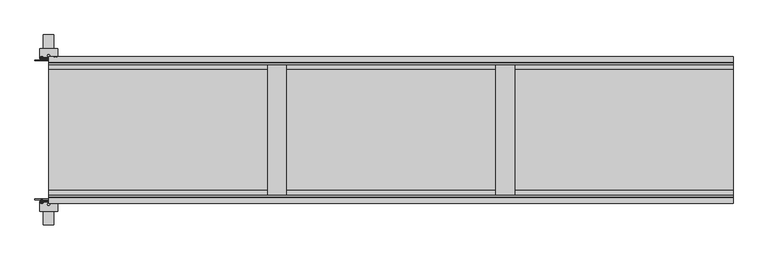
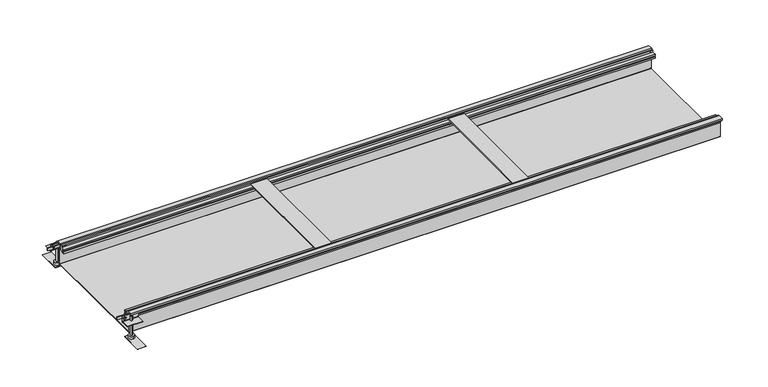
"""IFC4 building model written with IfcOpenShell, lengths in millimetres: proxy geometry."""

from ifc_helpers import new_model, si_unit, point, frame, frame_2d, origin, place, context, project, spatial, polyline, circle_curve, ellipse_curve, trimmed, segment, composite_curve, outline, extrude, source, transform, mapped, element, save
from ifc_brep_helpers import plane_surface, cylinder_surface, revolved_surface, advanced_brep


def electrical_fixtures_ce3c5b8d(model_context):
    return source(origin(), model_context, "Body", "SolidModel", [
        advanced_brep(
        [(-19.209696, -256.6418922, 2.5), (-28.790304, -256.6418922, 2.5), (-28.790304, -254.7, 2.5), (-19.209696, -254.7, 2.5), (-26.562969, -254.7, 2.5), (-21.437031, -254.7, 2.5), (-26.562969, -242.7, 2.5), (-21.437031, -242.7, 2.5), (-24.0, -242.7, 2.5), (-24.0, -258.3479209, 2.5)],
        [
            (0, 1, circle_curve(frame((-24.0, -256.6418922, 2.5), z_axis=(0.0, 1.0, 0.0), x_axis=(-1.0, 0.0, 0.0)), 4.790304)),
            (1, 2),
            (2, 3, circle_curve(frame((-24.0, -254.7, 2.5), z_axis=(0.0, -1.0, 0.0), x_axis=(-1.0, 0.0, 0.0)), 4.790304)),
            (3, 0),
            (1, 0, circle_curve(frame((-24.0, -256.6418922, 2.5), z_axis=(0.0, 1.0, 0.0), x_axis=(-1.0, 0.0, 0.0)), 4.790304)),
            (3, 2, circle_curve(frame((-24.0, -254.7, 2.5), z_axis=(0.0, -1.0, 0.0), x_axis=(-1.0, 0.0, 0.0)), 4.790304)),
            (2, 4),
            (4, 5, circle_curve(frame((-24.0, -254.7, 2.5), z_axis=(0.0, -1.0, 0.0), x_axis=(-1.0, 0.0, 0.0)), 2.562969)),
            (5, 3),
            (5, 4, circle_curve(frame((-24.0, -254.7, 2.5), z_axis=(0.0, -1.0, 0.0), x_axis=(-1.0, 0.0, 0.0)), 2.562969)),
            (4, 6),
            (6, 7, circle_curve(frame((-24.0, -242.7, 2.5), z_axis=(0.0, -1.0, 0.0), x_axis=(-1.0, 0.0, 0.0)), 2.562969)),
            (7, 5),
            (7, 6, circle_curve(frame((-24.0, -242.7, 2.5), z_axis=(0.0, -1.0, 0.0), x_axis=(-1.0, 0.0, 0.0)), 2.562969)),
            (6, 8),
            (8, 7),
            (9, 1, circle_curve(frame((-24.0319066, -250.8592246, 2.5), z_axis=(0.0, 0.0, -1.0), x_axis=(-1.0, 0.0, 0.0)), 7.4887643)),
            (0, 9, circle_curve(frame((-23.9680934, -250.8592246, 2.5), z_axis=(0.0, 0.0, -1.0), x_axis=(1.0, 0.0, 0.0)), 7.4887643)),
        ],
        [
            cylinder_surface(frame((-24.0, -254.2950786, 2.5), z_axis=(0.0, -1.0, 0.0), x_axis=(-1.0, 0.0, 0.0)), 4.790304),
            plane_surface(frame((-24.0, -254.7, 2.5), z_axis=(0.0, 1.0, 0.0), x_axis=(-1.0, 0.0, 0.0))),
            cylinder_surface(frame((-24.0, -254.2950786, 2.5), z_axis=(0.0, -1.0, 0.0), x_axis=(-1.0, 0.0, 0.0)), 2.562969),
            plane_surface(frame((-24.0, -242.7, 2.5), z_axis=(0.0, 1.0, 0.0), x_axis=(-1.0, 0.0, 0.0))),
            revolved_surface(trimmed(ellipse_curve(frame((-24.0319066, -250.8592246, 2.5), z_axis=(0.0, 0.0, 1.0), x_axis=(-1.0, 0.0, 0.0)), 7.4887643, 7.4887643), [point((-28.790304, -256.6418922, 2.5))], [point((-24.0, -258.3479209, 2.5))], True, "CARTESIAN"), (-24.0, -254.2950786, 2.5), (0.0, -1.0, 0.0)),
        ],
        [
            (0, [[1, 2, 3, 4]]),
            (0, [[5, -4, 6, -2]]),
            (1, [[-3, 7, 8, 9]]),
            (1, [[-6, -9, 10, -7]]),
            (2, [[-8, 11, 12, 13]]),
            (2, [[-10, -13, 14, -11]]),
            (3, [[-12, 15, 16]]),
            (3, [[-14, -16, -15]]),
            (4, [[17, -1, 18]]),
            (4, [[-18, -5, -17]]),
        ],
    ),
        advanced_brep(
        [(29.0575247, 254.7, 2.5), (19.4769168, 254.7, 2.5), (19.4769168, 256.6418922, 2.5), (29.0575247, 256.6418922, 2.5), (26.8301898, 254.7, 2.5), (21.7042517, 254.7, 2.5), (26.8301898, 242.7, 2.5), (21.7042517, 242.7, 2.5), (24.2672208, 242.7, 2.5), (24.2672208, 258.3479209, 2.5)],
        [
            (0, 1, circle_curve(frame((24.2672208, 254.7, 2.5), z_axis=(0.0, 1.0, 0.0), x_axis=(-1.0, 0.0, 0.0)), 4.790304)),
            (1, 2),
            (2, 3, circle_curve(frame((24.2672208, 256.6418922, 2.5), z_axis=(0.0, -1.0, 0.0), x_axis=(-1.0, 0.0, 0.0)), 4.790304)),
            (3, 0),
            (1, 0, circle_curve(frame((24.2672208, 254.7, 2.5), z_axis=(0.0, 1.0, 0.0), x_axis=(-1.0, 0.0, 0.0)), 4.790304)),
            (3, 2, circle_curve(frame((24.2672208, 256.6418922, 2.5), z_axis=(0.0, -1.0, 0.0), x_axis=(-1.0, 0.0, 0.0)), 4.790304)),
            (4, 5, circle_curve(frame((24.2672208, 254.7, 2.5), z_axis=(0.0, 1.0, 0.0), x_axis=(-1.0, 0.0, 0.0)), 2.562969)),
            (5, 1),
            (0, 4),
            (5, 4, circle_curve(frame((24.2672208, 254.7, 2.5), z_axis=(0.0, 1.0, 0.0), x_axis=(-1.0, 0.0, 0.0)), 2.562969)),
            (6, 7, circle_curve(frame((24.2672208, 242.7, 2.5), z_axis=(0.0, 1.0, 0.0), x_axis=(-1.0, 0.0, 0.0)), 2.562969)),
            (7, 5),
            (4, 6),
            (7, 6, circle_curve(frame((24.2672208, 242.7, 2.5), z_axis=(0.0, 1.0, 0.0), x_axis=(-1.0, 0.0, 0.0)), 2.562969)),
            (8, 7),
            (6, 8),
            (2, 9, circle_curve(frame((24.2353142, 250.8592246, 2.5), z_axis=(0.0, 0.0, -1.0), x_axis=(-1.0, 0.0, 0.0)), 7.4887643)),
            (9, 3, circle_curve(frame((24.2991274, 250.8592246, 2.5), z_axis=(0.0, 0.0, -1.0), x_axis=(1.0, 0.0, 0.0)), 7.4887643)),
        ],
        [
            cylinder_surface(frame((24.2672208, 254.2950786, 2.5), z_axis=(0.0, -1.0, 0.0), x_axis=(-1.0, 0.0, 0.0)), 4.790304),
            plane_surface(frame((24.2672208, 254.7, 2.5), z_axis=(0.0, -1.0, 0.0), x_axis=(-1.0, 0.0, 0.0))),
            cylinder_surface(frame((24.2672208, 254.2950786, 2.5), z_axis=(0.0, -1.0, 0.0), x_axis=(-1.0, 0.0, 0.0)), 2.562969),
            plane_surface(frame((24.2672208, 242.7, 2.5), z_axis=(0.0, -1.0, 0.0), x_axis=(-1.0, 0.0, 0.0))),
            revolved_surface(trimmed(ellipse_curve(frame((24.2353142, 250.8592246, 2.5), z_axis=(0.0, 0.0, 1.0), x_axis=(-1.0, 0.0, 0.0)), 7.4887643, 7.4887643), [point((24.2672208, 258.3479209, 2.5))], [point((19.4769168, 256.6418922, 2.5))], True, "CARTESIAN"), (24.2672208, 254.2950786, 2.5), (0.0, -1.0, 0.0)),
        ],
        [
            (0, [[1, 2, 3, 4]]),
            (0, [[5, -4, 6, -2]]),
            (1, [[7, 8, -1, 9]]),
            (1, [[10, -9, -5, -8]]),
            (2, [[11, 12, -7, 13]]),
            (2, [[14, -13, -10, -12]]),
            (3, [[15, -11, 16]]),
            (3, [[-16, -14, -15]]),
            (4, [[-3, 17, 18]]),
            (4, [[-6, -18, -17]]),
        ],
    ),
        advanced_brep(
        [(-19.209696, 254.7, 2.5), (-28.790304, 254.7, 2.5), (-28.790304, 256.6418922, 2.5), (-19.209696, 256.6418922, 2.5), (-21.437031, 254.7, 2.5), (-26.562969, 254.7, 2.5), (-21.437031, 242.7, 2.5), (-26.562969, 242.7, 2.5), (-24.0, 242.7, 2.5), (-24.0, 258.3479209, 2.5)],
        [
            (0, 1, circle_curve(frame((-24.0, 254.7, 2.5), z_axis=(0.0, 1.0, 0.0), x_axis=(-1.0, 0.0, 0.0)), 4.790304)),
            (1, 2),
            (2, 3, circle_curve(frame((-24.0, 256.6418922, 2.5), z_axis=(0.0, -1.0, 0.0), x_axis=(-1.0, 0.0, 0.0)), 4.790304)),
            (3, 0),
            (1, 0, circle_curve(frame((-24.0, 254.7, 2.5), z_axis=(0.0, 1.0, 0.0), x_axis=(-1.0, 0.0, 0.0)), 4.790304)),
            (3, 2, circle_curve(frame((-24.0, 256.6418922, 2.5), z_axis=(0.0, -1.0, 0.0), x_axis=(-1.0, 0.0, 0.0)), 4.790304)),
            (4, 5, circle_curve(frame((-24.0, 254.7, 2.5), z_axis=(0.0, 1.0, 0.0), x_axis=(-1.0, 0.0, 0.0)), 2.562969)),
            (5, 1),
            (0, 4),
            (5, 4, circle_curve(frame((-24.0, 254.7, 2.5), z_axis=(0.0, 1.0, 0.0), x_axis=(-1.0, 0.0, 0.0)), 2.562969)),
            (6, 7, circle_curve(frame((-24.0, 242.7, 2.5), z_axis=(0.0, 1.0, 0.0), x_axis=(-1.0, 0.0, 0.0)), 2.562969)),
            (7, 5),
            (4, 6),
            (7, 6, circle_curve(frame((-24.0, 242.7, 2.5), z_axis=(0.0, 1.0, 0.0), x_axis=(-1.0, 0.0, 0.0)), 2.562969)),
            (8, 7),
            (6, 8),
            (2, 9, circle_curve(frame((-24.0319066, 250.8592246, 2.5), z_axis=(0.0, 0.0, -1.0), x_axis=(-1.0, 0.0, 0.0)), 7.4887643)),
            (9, 3, circle_curve(frame((-23.9680934, 250.8592246, 2.5), z_axis=(0.0, 0.0, -1.0), x_axis=(1.0, 0.0, 0.0)), 7.4887643)),
        ],
        [
            cylinder_surface(frame((-24.0, 254.2950786, 2.5), z_axis=(0.0, -1.0, 0.0), x_axis=(-1.0, 0.0, 0.0)), 4.790304),
            plane_surface(frame((-24.0, 254.7, 2.5), z_axis=(0.0, -1.0, 0.0), x_axis=(-1.0, 0.0, 0.0))),
            cylinder_surface(frame((-24.0, 254.2950786, 2.5), z_axis=(0.0, -1.0, 0.0), x_axis=(-1.0, 0.0, 0.0)), 2.562969),
            plane_surface(frame((-24.0, 242.7, 2.5), z_axis=(0.0, -1.0, 0.0), x_axis=(-1.0, 0.0, 0.0))),
            revolved_surface(trimmed(ellipse_curve(frame((-24.0319066, 250.8592246, 2.5), z_axis=(0.0, 0.0, 1.0), x_axis=(-1.0, 0.0, 0.0)), 7.4887643, 7.4887643), [point((-24.0, 258.3479209, 2.5))], [point((-28.790304, 256.6418922, 2.5))], True, "CARTESIAN"), (-24.0, 254.2950786, 2.5), (0.0, -1.0, 0.0)),
        ],
        [
            (0, [[1, 2, 3, 4]]),
            (0, [[5, -4, 6, -2]]),
            (1, [[7, 8, -1, 9]]),
            (1, [[10, -9, -5, -8]]),
            (2, [[11, 12, -7, 13]]),
            (2, [[14, -13, -10, -12]]),
            (3, [[15, -11, 16]]),
            (3, [[-16, -14, -15]]),
            (4, [[-3, 17, 18]]),
            (4, [[-6, -18, -17]]),
        ],
    ),
        extrude(outline(polyline([(-48.0, 242.7), (-48.0, 245.7), (48.0, 245.7), (48.0, 242.7), (-48.0, 242.7)])), frame((0.0, 0.0, -2.5), z_axis=(0.0, 0.0, 1.0), x_axis=(1.0, 0.0, 0.0)), (0.0, 0.0, 1.0), 10.0),
        extrude(outline(polyline([(-48.0, -245.7), (-48.0, -242.7), (48.0, -242.7), (48.0, -245.7), (-48.0, -245.7)])), frame((0.0, 0.0, -2.5), z_axis=(0.0, 0.0, 1.0), x_axis=(1.0, 0.0, 0.0)), (0.0, 0.0, 1.0), 10.0),
        extrude(outline(composite_curve([segment(polyline([(250.6, 10.9), (252.6, 10.9), (252.6, -11.1088822)]), True, "CONTINUOUS"), segment(trimmed(circle_curve(frame_2d((253.5911178, -11.1088822)), 0.9911178), [point((252.6, -11.1088822))], [point((253.5911178, -12.1))], True, "CARTESIAN"), True, "CONTINUOUS"), segment(polyline([(253.5911178, -12.1), (285.6, -12.1), (285.6, -14.1), (253.6002521, -14.1)]), True, "CONTINUOUS"), segment(trimmed(circle_curve(frame_2d((253.6002521, -11.0997479)), 3.0002521), [point((253.6002521, -14.1))], [point((250.6, -11.0997479))], False, "CARTESIAN"), True, "CONTINUOUS"), segment(polyline([(250.6, -11.0997479), (250.6, 10.9)]), True, "CONTINUOUS")], self_intersect=False)), frame((-31.7, 0.0, 0.0), z_axis=(1.0, 0.0, 0.0), x_axis=(0.0, 1.0, 0.0)), (0.0, 0.0, 1.0), 63.4),
        extrude(outline(composite_curve([segment(polyline([(-250.6, 10.9), (-250.6, -11.0997479)]), True, "CONTINUOUS"), segment(trimmed(circle_curve(frame_2d((-253.6002521, -11.0997479)), 3.0002521), [point((-250.6, -11.0997479))], [point((-253.6002521, -14.1))], False, "CARTESIAN"), True, "CONTINUOUS"), segment(polyline([(-253.6002521, -14.1), (-285.6, -14.1), (-285.6, -12.1), (-253.5911178, -12.1)]), True, "CONTINUOUS"), segment(trimmed(circle_curve(frame_2d((-253.5911178, -11.1088822)), 0.9911178), [point((-253.5911178, -12.1))], [point((-252.6, -11.1088822))], True, "CARTESIAN"), True, "CONTINUOUS"), segment(polyline([(-252.6, -11.1088822), (-252.6, 10.9), (-250.6, 10.9)]), True, "CONTINUOUS")], self_intersect=False)), frame((-31.7, 0.0, 0.0), z_axis=(1.0, 0.0, 0.0), x_axis=(0.0, 1.0, 0.0)), (0.0, 0.0, 1.0), 63.4),
        extrude(outline(composite_curve([segment(trimmed(circle_curve(frame_2d((0.0, 261.1712378)), 3.9923162), [point((0.0, 265.163554))], [point((0.0, 257.1789216))], False, "CARTESIAN"), True, "CONTINUOUS"), segment(trimmed(circle_curve(frame_2d((0.0, 261.1712378)), 3.9923162), [point((0.0, 257.1789216))], [point((0.0, 265.163554))], False, "CARTESIAN"), True, "CONTINUOUS")], self_intersect=False)), frame((0.0, 0.0, -74.8), z_axis=(0.0, 0.0, 1.0), x_axis=(1.0, 0.0, 0.0)), (0.0, 0.0, 1.0), 81.8),
        extrude(outline(composite_curve([segment(trimmed(circle_curve(frame_2d((0.0, -261.0787011)), 3.991847), [point((0.0, -257.0868541))], [point((0.0, -265.0705482))], False, "CARTESIAN"), True, "CONTINUOUS"), segment(trimmed(circle_curve(frame_2d((0.0, -261.0787011)), 3.991847), [point((0.0, -265.0705482))], [point((0.0, -257.0868541))], False, "CARTESIAN"), True, "CONTINUOUS")], self_intersect=False)), frame((0.0, 0.0, -74.8), z_axis=(0.0, 0.0, 1.0), x_axis=(1.0, 0.0, 0.0)), (0.0, 0.0, 1.0), 81.8),
        extrude(outline(composite_curve([segment(trimmed(circle_curve(frame_2d((0.0, 261.1652527)), 12.0), [point((0.0, 273.1652527))], [point((0.0, 249.1652527))], False, "CARTESIAN"), True, "CONTINUOUS"), segment(trimmed(circle_curve(frame_2d((0.0, 261.1652527)), 12.0), [point((0.0, 249.1652527))], [point((0.0, 273.1652527))], False, "CARTESIAN"), True, "CONTINUOUS")], self_intersect=False)), frame((0.0, 0.0, -85.5), z_axis=(0.0, 0.0, 1.0), x_axis=(1.0, 0.0, 0.0)), (0.0, 0.0, 1.0), 10.7),
        extrude(outline(composite_curve([segment(trimmed(circle_curve(frame_2d((0.0, -261.112037)), 12.0), [point((0.0, -249.112037))], [point((0.0, -273.112037))], False, "CARTESIAN"), True, "CONTINUOUS"), segment(trimmed(circle_curve(frame_2d((0.0, -261.112037)), 12.0), [point((0.0, -273.112037))], [point((0.0, -249.112037))], False, "CARTESIAN"), True, "CONTINUOUS")], self_intersect=False)), frame((0.0, 0.0, -85.5), z_axis=(0.0, 0.0, 1.0), x_axis=(1.0, 0.0, 0.0)), (0.0, 0.0, 1.0), 10.7),
        extrude(outline(polyline([(18.0, 244.1), (-18.0, 244.1), (-18.0, 334.1), (18.0, 334.1), (18.0, 244.1)])), frame((0.0, 0.0, -87.0), z_axis=(0.0, 0.0, 1.0), x_axis=(1.0, 0.0, 0.0)), (0.0, 0.0, 1.0), 1.5),
        extrude(outline(polyline([(18.0, -334.1), (-18.0, -334.1), (-18.0, -244.1), (18.0, -244.1), (18.0, -334.1)])), frame((0.0, 0.0, -87.0), z_axis=(0.0, 0.0, 1.0), x_axis=(1.0, 0.0, 0.0)), (0.0, 0.0, 1.0), 1.5),
        extrude(outline(polyline([(1633.5851476, 229.8), (1633.5851476, -229.8), (1568.585332, -229.8), (1568.585332, 229.8), (1633.5851476, 229.8)])), frame((0.0, 0.0, 2.5), z_axis=(0.0, 0.0, 1.0), x_axis=(1.0, 0.0, 0.0)), (0.0, 0.0, 1.0), 4.2),
        extrude(outline(polyline([(833.5851476, 229.8), (833.5851476, -229.8), (768.585332, -229.8), (768.585332, 229.8), (833.5851476, 229.8)])), frame((0.0, 0.0, 2.5), z_axis=(0.0, 0.0, 1.0), x_axis=(1.0, 0.0, 0.0)), (0.0, 0.0, 1.0), 4.2),
        extrude(outline(polyline([(258.0, 6.7), (240.0, 6.7), (240.0, -2.5), (250.475, -2.5), (250.475, -4.0), (244.6, -4.0), (244.6, -14.0), (243.1, -14.0), (243.1, -4.0), (235.1, -4.0), (235.1, -10.1), (223.3, -10.1), (223.3, -14.0), (213.1, -14.0), (213.1, -6.6607064), (216.0, -6.6607064), (216.0, -12.5), (220.7, -12.5), (220.7, 0.5), (216.0, 0.5), (216.0, -2.1), (212.9910979, -2.1), (212.9910979, 2.5), (229.8, 2.5), (229.8, 10.0), (235.0, 10.0), (235.0, -0.5), (238.0, -0.5), (238.0, 13.0), (258.0, 13.0), (258.0, 6.7)])), frame((0.0, 0.0, 0.0), z_axis=(1.0, 0.0, 0.0), x_axis=(0.0, 1.0, 0.0)), (0.0, 0.0, 1.0), 2400.0),
        extrude(outline(polyline([(-258.0, 6.7), (-258.0, 13.0), (-238.0, 13.0), (-238.0, -0.5), (-235.0, -0.5), (-235.0, 10.0), (-229.8, 10.0), (-229.8, 2.5), (-212.9910979, 2.5), (-212.9910979, -2.1), (-216.0, -2.1), (-216.0, 0.5), (-220.7, 0.5), (-220.7, -12.5), (-216.0, -12.5), (-216.0, -6.6607064), (-213.1, -6.6607064), (-213.1, -14.0), (-223.3, -14.0), (-223.3, -10.1), (-235.1, -10.1), (-235.1, -4.0), (-243.1, -4.0), (-243.1, -14.0), (-244.6, -14.0), (-244.6, -4.0), (-250.475, -4.0), (-250.475, -2.5), (-240.0, -2.5), (-240.0, 6.7), (-258.0, 6.7)])), frame((0.0, 0.0, 0.0), z_axis=(1.0, 0.0, 0.0), x_axis=(0.0, 1.0, 0.0)), (0.0, 0.0, 1.0), 2400.0),
        extrude(outline(composite_curve([segment(polyline([(241.0, -5.0), (236.0, -5.0), (236.0, -4.0), (241.0, -4.0)]), True, "CONTINUOUS"), segment(trimmed(circle_curve(frame_2d((241.0, -6.0)), 2.0), [point((241.0, -4.0))], [point((243.0, -6.0))], False, "CARTESIAN"), True, "CONTINUOUS"), segment(polyline([(243.0, -6.0), (243.0, -74.0)]), True, "CONTINUOUS"), segment(trimmed(circle_curve(frame_2d((241.0, -74.0)), 2.0), [point((243.0, -74.0))], [point((241.0, -76.0))], False, "CARTESIAN"), True, "CONTINUOUS"), segment(polyline([(241.0, -76.0), (-240.9892454, -76.0)]), True, "CONTINUOUS"), segment(trimmed(circle_curve(frame_2d((-240.9892454, -73.9892454)), 2.0107546), [point((-240.9892454, -76.0))], [point((-243.0, -73.9892454))], False, "CARTESIAN"), True, "CONTINUOUS"), segment(polyline([(-243.0, -73.9892454), (-243.0, -5.9843923)]), True, "CONTINUOUS"), segment(trimmed(circle_curve(frame_2d((-241.0156077, -5.9843923)), 1.9843923), [point((-243.0, -5.9843923))], [point((-241.0156077, -4.0))], False, "CARTESIAN"), True, "CONTINUOUS"), segment(polyline([(-241.0156077, -4.0), (-236.0, -4.0), (-236.0, -5.0), (-240.9930712, -5.0)]), True, "CONTINUOUS"), segment(trimmed(circle_curve(frame_2d((-240.9930712, -6.0069288)), 1.0069288), [point((-240.9930712, -5.0))], [point((-242.0, -6.0069288))], True, "CARTESIAN"), True, "CONTINUOUS"), segment(polyline([(-242.0, -6.0069288), (-242.0, -73.9588562)]), True, "CONTINUOUS"), segment(trimmed(circle_curve(frame_2d((-240.9588562, -73.9588562)), 1.0411438), [point((-242.0, -73.9588562))], [point((-240.9588562, -75.0))], True, "CARTESIAN"), True, "CONTINUOUS"), segment(polyline([(-240.9588562, -75.0), (241.0, -75.0)]), True, "CONTINUOUS"), segment(trimmed(circle_curve(frame_2d((241.0, -74.0)), 1.0), [point((241.0, -75.0))], [point((242.0, -74.0))], True, "CARTESIAN"), True, "CONTINUOUS"), segment(polyline([(242.0, -74.0), (242.0, -6.0)]), True, "CONTINUOUS"), segment(trimmed(circle_curve(frame_2d((241.0, -6.0)), 1.0), [point((242.0, -6.0))], [point((241.0, -5.0))], True, "CARTESIAN"), True, "CONTINUOUS")], self_intersect=False)), frame((0.0, 0.0, 0.0), z_axis=(1.0, 0.0, 0.0), x_axis=(0.0, 1.0, 0.0)), (0.0, 0.0, 1.0), 2400.0),
    ])


if __name__ == "__main__":
    model = new_model("IFC4")
    model_context = context("Model", 3, world=origin())
    ifc_project = project(units=[si_unit("LENGTHUNIT", "METRE", prefix="MILLI")], contexts=[model_context])
    site = spatial("IfcSite", under=ifc_project)
    building = spatial("IfcBuilding", under=site)
    placement = place(None, origin())
    electrical_fixtures_shape = electrical_fixtures_ce3c5b8d(model_context)
    element("IfcBuildingElementProxy", 1, Name="Electrical Fixtures", at=placement, inside=building, context=model_context, shape_type="MappedRepresentation", body=[
        mapped(electrical_fixtures_shape, transform((0.0, 0.0, 0.0), x_axis=(1.0, 0.0, 0.0), y_axis=(0.0, 1.0, 0.0), z_axis=(0.0, 0.0, 1.0))),
    ])
    save(model, "model.ifc")
